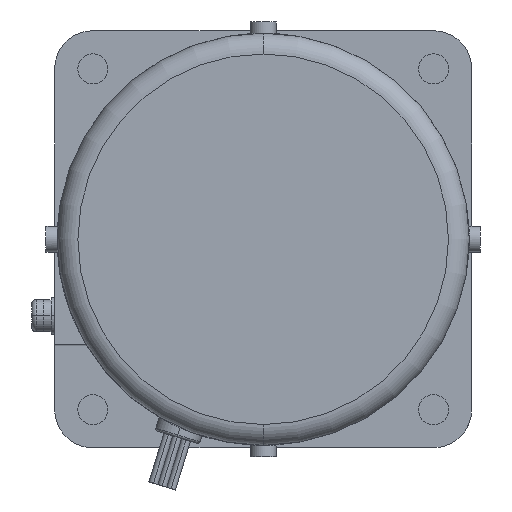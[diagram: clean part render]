
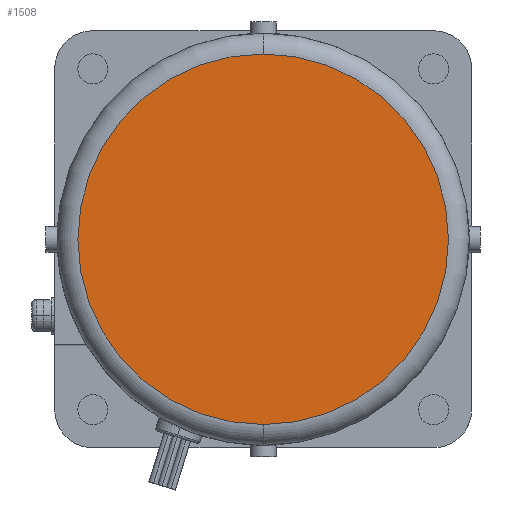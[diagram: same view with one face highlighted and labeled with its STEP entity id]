
A CAD part, left-side view. The second image highlights one B-rep face of the part: STEP entity #1508.
In plain terms, the highlighted planar face has unit normal (-1, 0, 0).
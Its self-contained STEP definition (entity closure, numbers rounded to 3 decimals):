
#1488=CARTESIAN_POINT('POINT761134',(-190.,0.,
   22.));
#1489=VERTEX_POINT('VERTEX761134',#1488);
#1490=CARTESIAN_POINT('POINT761135',(-190.,0.,
   -58.));
#1491=VERTEX_POINT('VERTEX761135',#1490);
#1492=CARTESIAN_POINT('POS1254332',(-190.,0.,-18.));
#1493=DIRECTION('DIR1888117',(-1.,0.,0.));
#1494=DIRECTION('DIR1888118',(0.,0.,-1.));
#1495=AXIS2_PLACEMENT_3D('AXIS633786',#1492,#1493,#1494);
#1496=CIRCLE('ELLIPSE289714',#1495,40.);
#1497=EDGE_CURVE('EDGE1167342',#1489,#1491,#1496,.T.);
#1498=ORIENTED_EDGE('COEDGE2335395',*,*,#1497,.T.);
#1499=EDGE_CURVE('EDGE1167343',#1491,#1489,#1496,.T.);
#1500=ORIENTED_EDGE('COEDGE2335396',*,*,#1499,.T.);
#1501=EDGE_LOOP('NONE',(#1498,#1500));
#1502=FACE_BOUND('LOOP1',#1501,.T.);
#1503=CARTESIAN_POINT('POS1254333',(-190.,0.,-40.245));
#1504=DIRECTION('DIR1888119',(-1.,0.,0.));
#1505=DIRECTION('DIR1888120',(0.,1.,0.));
#1506=AXIS2_PLACEMENT_3D('AXIS633787',#1503,#1504,#1505);
#1507=PLANE('PLANE212806',#1506);
#1508=ADVANCED_FACE('FACE479020',(#1502),#1507,.T.);
